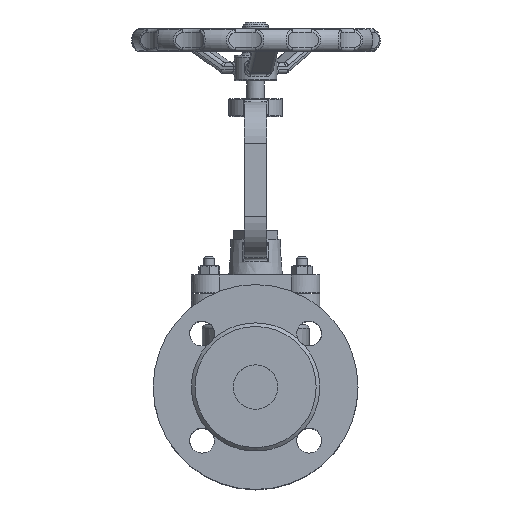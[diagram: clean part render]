
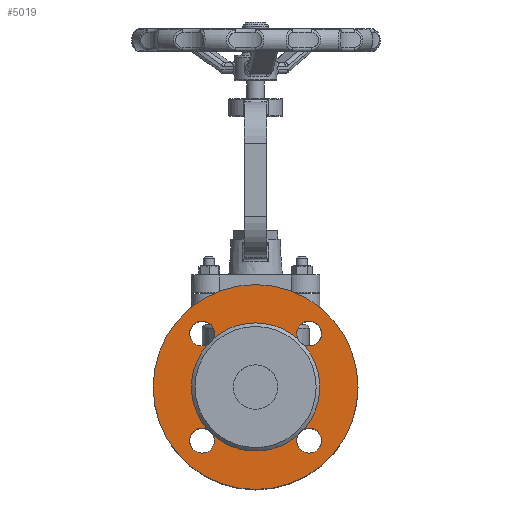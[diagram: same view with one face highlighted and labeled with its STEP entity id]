
A CAD part, top view. The second image highlights one B-rep face of the part: STEP entity #5019.
In plain terms, the highlighted planar face has unit normal (0, 0, 1).
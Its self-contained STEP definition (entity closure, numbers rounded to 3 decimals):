
#5019=ADVANCED_FACE('',(#13011,#13013),#13015,.F.);
#13011=FACE_BOUND('',#13012,.T.);
#13012=EDGE_LOOP('',(#20693));
#13013=FACE_BOUND('',#13014,.T.);
#13014=EDGE_LOOP('',(#20694,#20695,#20696,#20697,#20698,#20699,#20700,#20701,#20702,
#20703,#20704,#20705,#20706));
#13015=PLANE('',#13016);
#13016=AXIS2_PLACEMENT_3D('',#13017,#13018,#13019);
#13017=CARTESIAN_POINT('',(0.,0.,78.));
#13018=DIRECTION('',(0.,0.,-1.));
#13019=DIRECTION('',(0.,1.,0.));
#20693=ORIENTED_EDGE('',*,*,#23735,.T.);
#20694=ORIENTED_EDGE('',*,*,#23738,.T.);
#20695=ORIENTED_EDGE('',*,*,#23893,.F.);
#20696=ORIENTED_EDGE('',*,*,#23745,.T.);
#20697=ORIENTED_EDGE('',*,*,#23747,.T.);
#20698=ORIENTED_EDGE('',*,*,#23894,.F.);
#20699=ORIENTED_EDGE('',*,*,#23740,.T.);
#20700=ORIENTED_EDGE('',*,*,#23739,.T.);
#20701=ORIENTED_EDGE('',*,*,#23895,.F.);
#20702=ORIENTED_EDGE('',*,*,#23896,.F.);
#20703=ORIENTED_EDGE('',*,*,#23743,.T.);
#20704=ORIENTED_EDGE('',*,*,#23742,.T.);
#20705=ORIENTED_EDGE('',*,*,#23897,.F.);
#20706=ORIENTED_EDGE('',*,*,#23736,.T.);
#23735=EDGE_CURVE('',#26988,#26988,#26989,.T.);
#23736=EDGE_CURVE('',#26990,#26991,#26992,.T.);
#23738=EDGE_CURVE('',#26991,#26993,#26995,.T.);
#23739=EDGE_CURVE('',#26996,#26997,#26998,.T.);
#23740=EDGE_CURVE('',#26999,#26996,#27000,.T.);
#23742=EDGE_CURVE('',#27002,#27003,#27004,.T.);
#23743=EDGE_CURVE('',#27005,#27002,#27006,.T.);
#23745=EDGE_CURVE('',#27008,#27009,#27010,.T.);
#23747=EDGE_CURVE('',#27009,#27011,#27013,.T.);
#23893=EDGE_CURVE('',#27008,#26993,#27248,.T.);
#23894=EDGE_CURVE('',#26999,#27011,#27249,.T.);
#23895=EDGE_CURVE('',#27250,#26997,#27251,.T.);
#23896=EDGE_CURVE('',#27005,#27250,#27252,.T.);
#23897=EDGE_CURVE('',#26990,#27003,#27253,.T.);
#26988=VERTEX_POINT('',#52514);
#26989=CIRCLE('',#52515,57.5);
#26990=VERTEX_POINT('',#52519);
#26991=VERTEX_POINT('',#52520);
#26992=CIRCLE('',#52521,7.);
#26993=VERTEX_POINT('',#52525);
#26995=CIRCLE('',#52583,7.);
#26996=VERTEX_POINT('',#52587);
#26997=VERTEX_POINT('',#52588);
#26998=CIRCLE('',#52589,7.);
#26999=VERTEX_POINT('',#52593);
#27000=CIRCLE('',#52594,7.);
#27002=VERTEX_POINT('',#52655);
#27003=VERTEX_POINT('',#52656);
#27004=CIRCLE('',#52657,7.);
#27005=VERTEX_POINT('',#52661);
#27006=CIRCLE('',#52662,7.);
#27008=VERTEX_POINT('',#52723);
#27009=VERTEX_POINT('',#52724);
#27010=CIRCLE('',#52725,7.);
#27011=VERTEX_POINT('',#52729);
#27013=CIRCLE('',#52787,7.);
#27248=CIRCLE('',#53877,36.);
#27249=CIRCLE('',#53881,36.);
#27250=VERTEX_POINT('',#53885);
#27251=CIRCLE('',#53886,36.);
#27252=CIRCLE('',#53890,36.);
#27253=CIRCLE('',#53894,36.);
#52514=CARTESIAN_POINT('',(0.,57.5,78.));
#52515=AXIS2_PLACEMENT_3D('',#52516,#52517,#52518);
#52516=CARTESIAN_POINT('',(0.,0.,78.));
#52517=DIRECTION('',(0.,0.,1.));
#52518=DIRECTION('',(0.,1.,0.));
#52519=CARTESIAN_POINT('',(27.09,-23.71,78.));
#52520=CARTESIAN_POINT('',(30.052,-23.052,78.));
#52521=AXIS2_PLACEMENT_3D('',#52522,#52523,#52524);
#52522=CARTESIAN_POINT('',(30.052,-30.052,78.));
#52523=DIRECTION('',(0.,0.,-1.));
#52524=DIRECTION('',(-0.423,0.906,0.));
#52525=CARTESIAN_POINT('',(23.71,-27.09,78.));
#52583=AXIS2_PLACEMENT_3D('',#52584,#52585,#52586);
#52584=CARTESIAN_POINT('',(30.052,-30.052,78.));
#52585=DIRECTION('',(0.,0.,-1.));
#52586=DIRECTION('',(0.,1.,0.));
#52587=CARTESIAN_POINT('',(-30.052,23.052,78.));
#52588=CARTESIAN_POINT('',(-23.71,27.09,78.));
#52589=AXIS2_PLACEMENT_3D('',#52590,#52591,#52592);
#52590=CARTESIAN_POINT('',(-30.052,30.052,78.));
#52591=DIRECTION('',(0.,0.,-1.));
#52592=DIRECTION('',(0.,-1.,0.));
#52593=CARTESIAN_POINT('',(-27.09,23.71,78.));
#52594=AXIS2_PLACEMENT_3D('',#52595,#52596,#52597);
#52595=CARTESIAN_POINT('',(-30.052,30.052,78.));
#52596=DIRECTION('',(0.,0.,-1.));
#52597=DIRECTION('',(0.423,-0.906,0.));
#52655=CARTESIAN_POINT('',(23.052,30.052,78.));
#52656=CARTESIAN_POINT('',(27.09,23.71,78.));
#52657=AXIS2_PLACEMENT_3D('',#52658,#52659,#52660);
#52658=CARTESIAN_POINT('',(30.052,30.052,78.));
#52659=DIRECTION('',(0.,0.,-1.));
#52660=DIRECTION('',(-1.,0.,0.));
#52661=CARTESIAN_POINT('',(23.71,27.09,78.));
#52662=AXIS2_PLACEMENT_3D('',#52663,#52664,#52665);
#52663=CARTESIAN_POINT('',(30.052,30.052,78.));
#52664=DIRECTION('',(0.,0.,-1.));
#52665=DIRECTION('',(-0.906,-0.423,0.));
#52723=CARTESIAN_POINT('',(-23.71,-27.09,78.));
#52724=CARTESIAN_POINT('',(-23.052,-30.052,78.));
#52725=AXIS2_PLACEMENT_3D('',#52726,#52727,#52728);
#52726=CARTESIAN_POINT('',(-30.052,-30.052,78.));
#52727=DIRECTION('',(0.,0.,-1.));
#52728=DIRECTION('',(0.906,0.423,0.));
#52729=CARTESIAN_POINT('',(-27.09,-23.71,78.));
#52787=AXIS2_PLACEMENT_3D('',#52788,#52789,#52790);
#52788=CARTESIAN_POINT('',(-30.052,-30.052,78.));
#52789=DIRECTION('',(0.,0.,-1.));
#52790=DIRECTION('',(1.,0.,0.));
#53877=AXIS2_PLACEMENT_3D('',#53878,#53879,#53880);
#53878=CARTESIAN_POINT('',(0.,0.,78.));
#53879=DIRECTION('',(0.,0.,1.));
#53880=DIRECTION('',(-0.659,-0.752,0.));
#53881=AXIS2_PLACEMENT_3D('',#53882,#53883,#53884);
#53882=CARTESIAN_POINT('',(0.,0.,78.));
#53883=DIRECTION('',(0.,0.,1.));
#53884=DIRECTION('',(-0.752,0.659,0.));
#53885=CARTESIAN_POINT('',(0.,36.,78.));
#53886=AXIS2_PLACEMENT_3D('',#53887,#53888,#53889);
#53887=CARTESIAN_POINT('',(0.,0.,78.));
#53888=DIRECTION('',(0.,0.,1.));
#53889=DIRECTION('',(0.,1.,0.));
#53890=AXIS2_PLACEMENT_3D('',#53891,#53892,#53893);
#53891=CARTESIAN_POINT('',(0.,0.,78.));
#53892=DIRECTION('',(0.,0.,1.));
#53893=DIRECTION('',(0.659,0.752,0.));
#53894=AXIS2_PLACEMENT_3D('',#53895,#53896,#53897);
#53895=CARTESIAN_POINT('',(0.,0.,78.));
#53896=DIRECTION('',(0.,0.,1.));
#53897=DIRECTION('',(0.752,-0.659,0.));
